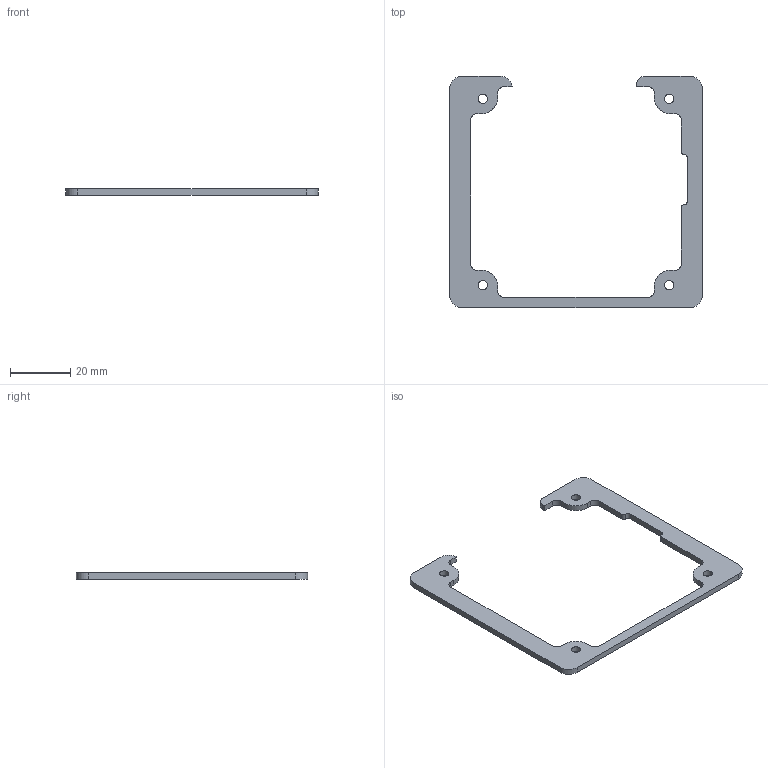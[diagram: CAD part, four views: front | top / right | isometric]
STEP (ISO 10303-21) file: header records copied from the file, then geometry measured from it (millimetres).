
FILE_DESCRIPTION(/* description */ ('Alibre Inc.'),/* implementation_level */ '2;1');
FILE_NAME(/* name */ 'export0',/* time_stamp */ '2018-10-16T15:26:26-07:00',/* author */ (''),/* organization */ (''),/* preprocessor_version */ 'ST-DEVELOPER v17',/* originating_system */ 'Alibre',/* authorisation */ '');
FILE_SCHEMA (('AUTOMOTIVE_DESIGN'));
Length unit declared in the file: millimetre
Bounding box: 84 x 77 x 2 mm (x, y, z)
Volume: 3291.2 mm3; surface area: 4373.8 mm2
Topology: 1 solids, 1 shells, 49 faces, 141 edges, 94 vertices
Faces by surface type: cylinder 26, plane 23
Full cylindrical faces by diameter (mm): 3.1 x4
Entity records: 1587 total; most frequent: ORIENTED_EDGE 274, CARTESIAN_POINT 273, DIRECTION 257, EDGE_CURVE 137, AXIS2_PLACEMENT_3D 98, VERTEX_POINT 94, VECTOR 81, LINE 81
